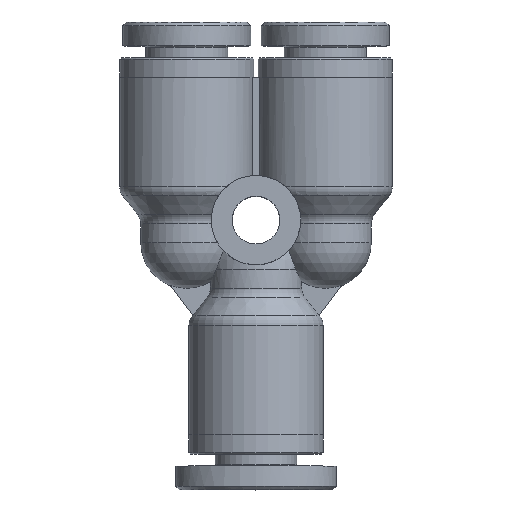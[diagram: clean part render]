
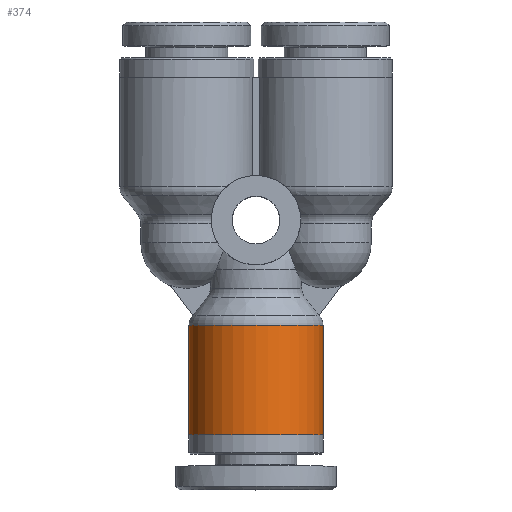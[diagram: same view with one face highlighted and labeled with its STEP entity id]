
A CAD part, top view. The second image highlights one B-rep face of the part: STEP entity #374.
In plain terms, the highlighted cylindrical face has radius 4.5 mm (diameter 9 mm), a full revolution.
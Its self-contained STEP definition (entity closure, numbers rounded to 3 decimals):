
#340=CARTESIAN_POINT('',(-4.5,-16.643,0.0));
#341=VERTEX_POINT('',#340);
#342=CARTESIAN_POINT('',(0.0,-16.643,0.0));
#343=DIRECTION('',(0.0,1.0,0.0));
#344=DIRECTION('',(1.0,0.0,0.0));
#345=AXIS2_PLACEMENT_3D('',#342,#343,#344);
#346=CIRCLE('',#345,4.5);
#347=EDGE_CURVE('',#341,#341,#346,.T.);
#355=CARTESIAN_POINT('',(0.0,-20.15,0.0));
#356=DIRECTION('',(0.0,1.0,0.0));
#357=DIRECTION('',(-1.0,0.0,0.0));
#358=AXIS2_PLACEMENT_3D('',#355,#356,#357);
#359=CYLINDRICAL_SURFACE('',#358,4.5);
#360=CARTESIAN_POINT('',(-4.5,-24.,0.0));
#361=VERTEX_POINT('',#360);
#362=CARTESIAN_POINT('',(0.0,-24.,0.0));
#363=DIRECTION('',(0.0,1.0,0.0));
#364=DIRECTION('',(-1.0,0.0,0.0));
#365=AXIS2_PLACEMENT_3D('',#362,#363,#364);
#366=CIRCLE('',#365,4.5);
#367=EDGE_CURVE('',#361,#361,#366,.T.);
#368=ORIENTED_EDGE('',*,*,#367,.T.);
#369=EDGE_LOOP('',(#368));
#370=FACE_OUTER_BOUND('',#369,.T.);
#371=ORIENTED_EDGE('',*,*,#347,.F.);
#372=EDGE_LOOP('',(#371));
#373=FACE_BOUND('',#372,.T.);
#374=ADVANCED_FACE('',(#370,#373),#359,.T.);
